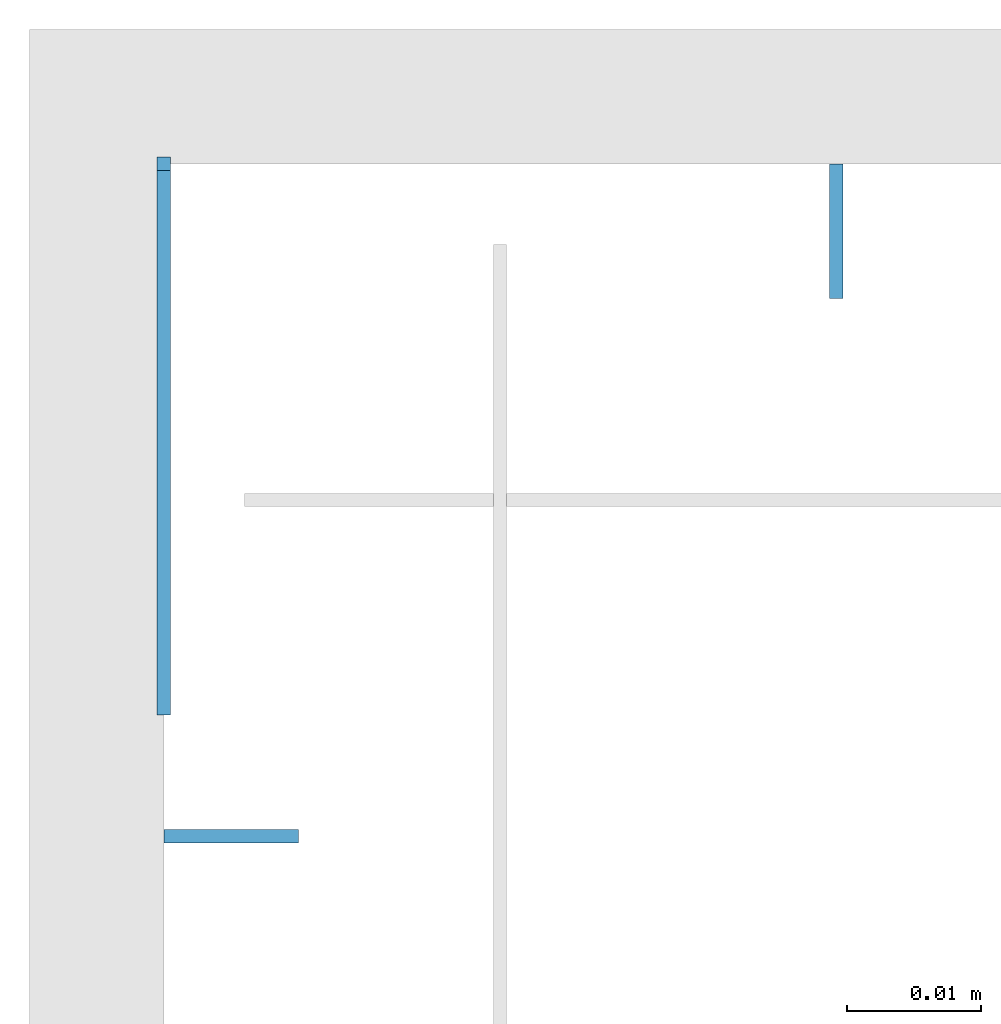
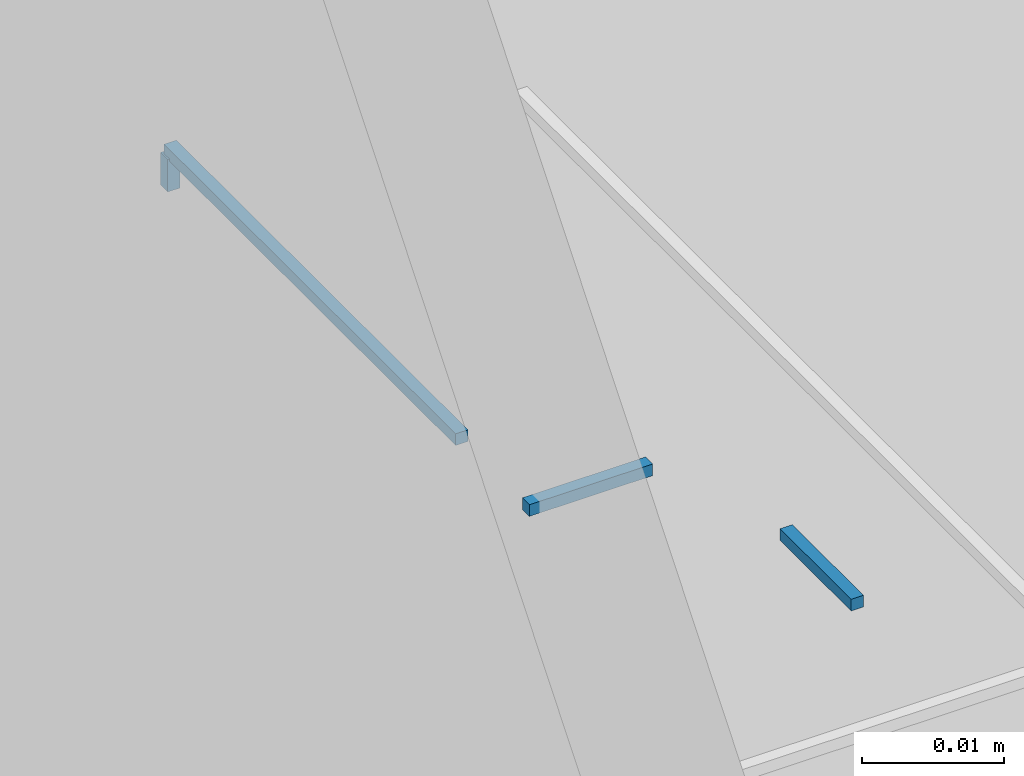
# One storey, part 94 of 186: 4 beams.
"""IFC4X3_ADD2 building model written with IfcOpenShell, lengths in millimetres."""

from ifc_helpers import new_model, si_unit, direction, frame, frame_2d, origin_with_axes, place, context, subcontext, project, spatial, rectangle, extrude, material, element, save


model = new_model("IFC4X3_ADD2")

# Units and contexts
model_context = context("Model", 3, precision=1e-05, world=origin_with_axes(), true_north=direction((0.0, 1.0)))
body_context = subcontext(model_context, "Body", "Model", "MODEL_VIEW")
ifc_project = project(units=[si_unit("LENGTHUNIT", "METRE", prefix="MILLI"), si_unit("AREAUNIT", "SQUARE_METRE"), si_unit("VOLUMEUNIT", "CUBIC_METRE"), si_unit("PLANEANGLEUNIT", "RADIAN"), si_unit("TIMEUNIT", "SECOND"), si_unit("MASSUNIT", "GRAM")], contexts=[model_context])

# Site, building, storey
site_placement = place(None, origin_with_axes())
site = spatial("IfcSite", under=ifc_project, at=site_placement, Name="Site", CompositionType="ELEMENT")
building_placement = place(site_placement, origin_with_axes())
building = spatial("IfcBuilding", under=site, at=building_placement, Name="IFC Building Story")
storey_placement = place(building_placement, frame((0.0, 0.0, 4370.0), z_axis=(0.0, 0.0, 1.0), x_axis=(1.0, 0.0, 0.0)))
storey = spatial("IfcBuildingStorey", under=building, at=storey_placement, Name="ETAGE 10 (1)", Elevation=4370.0)

# Beams
ifc_material = material(Name="STEEL/Accessory_invisible")
beam_1_placement = place(storey_placement, frame((4777.68934822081, 17967.4997253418, 3760.0), z_axis=(1.0, 0.0, 0.0), x_axis=(0.0, 0.0, -1.0)))
element("IfcBeam", 1, at=beam_1_placement, inside=storey, material=ifc_material, Name="MP12", ObjectType="1*1 7", context=body_context, shape_type="SweptSolid", body=[
    extrude(rectangle(XDim=0.9999999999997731, YDim=41.0, at=frame_2d((0.0, 5.95523630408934e-12), x_axis=(1.0, 0.0))), origin_with_axes(), (0.0, 0.0, 1.0), 1.0),
])
beam_2_placement = place(storey_placement, frame((4827.68934822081, 17982.9997253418, 3709.5), z_axis=(1.0, 0.0, 0.0), x_axis=(0.0, 0.0, 1.0)))
element("IfcBeam", 2, at=beam_2_placement, inside=storey, material=ifc_material, Name="MP21", ObjectType="1*1 9", context=body_context, shape_type="SweptSolid", body=[
    extrude(rectangle(XDim=0.9999999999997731, YDim=10.0, at=frame_2d((0.0, 5.95523630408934e-12), x_axis=(1.0, 0.0))), origin_with_axes(), (0.0, 0.0, 1.0), 1.0),
])
beam_3_placement = place(storey_placement, frame((4778.68934822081, 17987.9997253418, 3758.09747859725), z_axis=(-1.0, 0.0, 0.0), x_axis=(0.0, 0.0, 1.0)))
element("IfcBeam", 3, at=beam_3_placement, inside=storey, material=ifc_material, Name="ZW1", ObjectType="1*1 8", context=body_context, shape_type="SweptSolid", body=[
    extrude(rectangle(XDim=2.79999999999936, YDim=1.0, at=frame_2d((0.0, 5.95523630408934e-12), x_axis=(1.0, 0.0))), origin_with_axes(), (0.0, 0.0, 1.0), 1.0),
])
beam_4_placement = place(storey_placement, frame((4788.189348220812, 17937.9997253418, 3759.5), z_axis=(-1.0, 0.0, 0.0), x_axis=(0.0, 1.0, 0.0)))
element("IfcBeam", 4, at=beam_4_placement, inside=storey, material=ifc_material, Name="MP21", ObjectType="1*1 3", context=body_context, shape_type="SweptSolid", body=[
    extrude(rectangle(XDim=0.9999999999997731, YDim=0.9999999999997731, at=frame_2d((0.0, 5.95523630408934e-12), x_axis=(1.0, 0.0))), origin_with_axes(), (0.0, 0.0, 1.0), 10.0),
])

save(model, "model.ifc")
